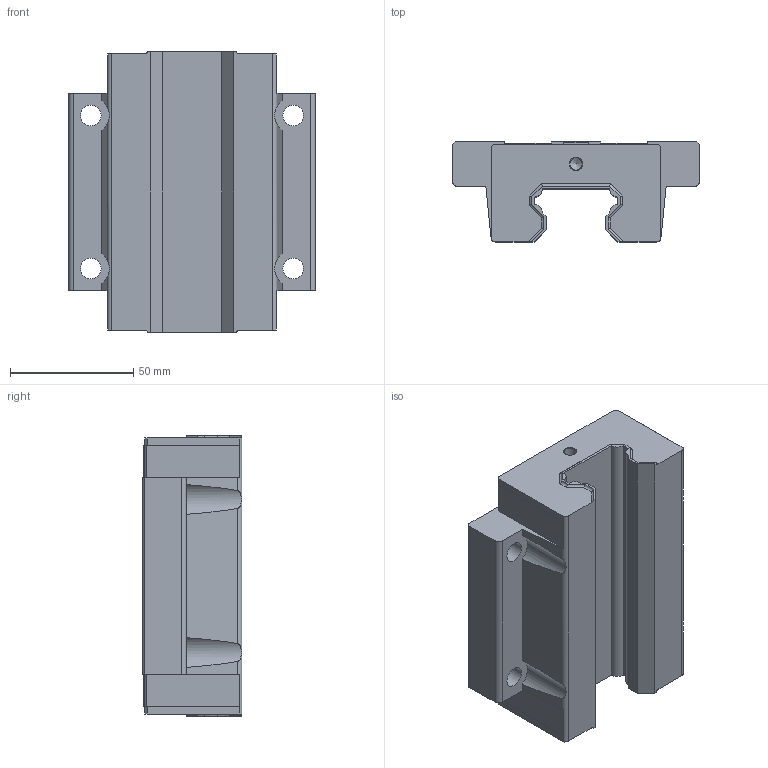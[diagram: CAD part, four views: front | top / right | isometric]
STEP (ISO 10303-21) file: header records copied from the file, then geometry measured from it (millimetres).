
FILE_DESCRIPTION(/* description */ (''),/* implementation_level */ '2;1');
FILE_NAME(/* name */ 'C:\Users\daviddillkoetter\ownCloud\Kamp und Kötter\Artikel\KPN_Profilführungen\Step\KPNW-35X-FS.stp',/* time_stamp */ '2021-01-27T16:40:05+01:00',/* author */ ('daviddillkoetter'),/* organization */ (''),/* preprocessor_version */ 'ST-DEVELOPER v18.1',/* originating_system */ 'Autodesk Inventor 2021',/* authorisation */ '');
FILE_SCHEMA (('AUTOMOTIVE_DESIGN { 1 0 10303 214 3 1 1 }'));
Length unit declared in the file: millimetre
Products named in the file (1): KPNW-F
Bounding box: 100 x 40.5 x 113.8 mm (x, y, z)
Volume: 282655.4 mm3; surface area: 41880.9 mm2
Topology: 1 solids, 1 shells, 116 faces, 336 edges, 222 vertices
Faces by surface type: plane 68, cylinder 40, cone 8
Full cylindrical faces by diameter (mm): 4.917 x2, 8.376 x4
Entity records: 4040 total; most frequent: CARTESIAN_POINT 759, ORIENTED_EDGE 668, DIRECTION 644, EDGE_CURVE 334, LINE 250, VECTOR 250, VERTEX_POINT 222, AXIS2_PLACEMENT_3D 197
